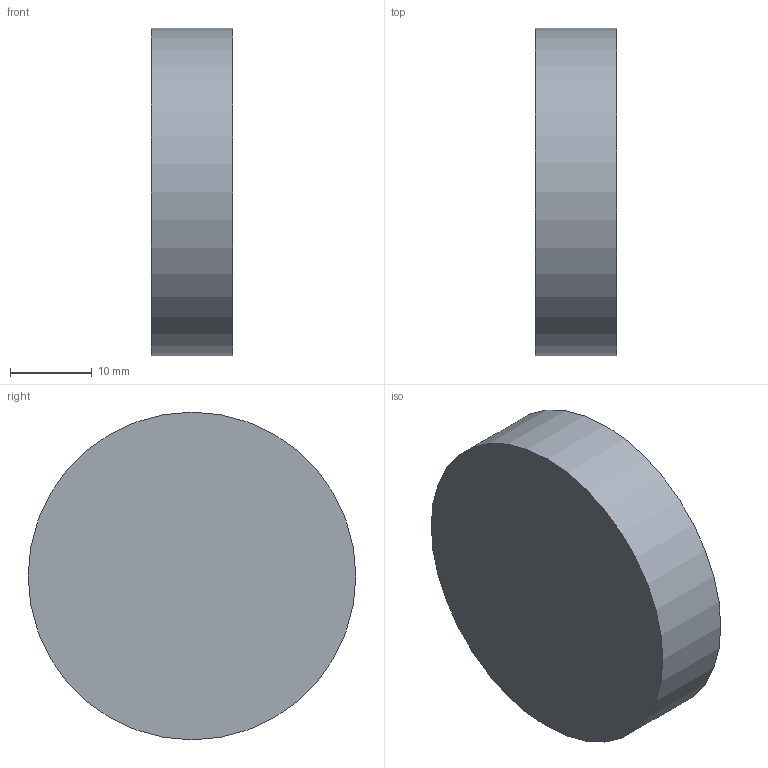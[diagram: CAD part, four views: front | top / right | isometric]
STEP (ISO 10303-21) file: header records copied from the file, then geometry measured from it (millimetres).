
FILE_DESCRIPTION(('Open CASCADE Model'),'2;1');
FILE_NAME('Open CASCADE Shape Model','2026-10-21T10:33:18',('Author'),( 'Open CASCADE'),'Open CASCADE STEP processor 7.9','Open CASCADE 7.9' ,'Unknown');
FILE_SCHEMA(('AUTOMOTIVE_DESIGN { 1 0 10303 214 1 1 1 1 }'));
Length unit declared in the file: millimetre
Products named in the file (1): Open CASCADE STEP translator 7.9 23
Bounding box: 10 x 40 x 40 mm (x, y, z)
Volume: 12566.4 mm3; surface area: 3769.9 mm2
Topology: 1 solids, 1 shells, 3 faces, 3 edges, 2 vertices
Faces by surface type: plane 2, cylinder 1
Full cylindrical faces by diameter (mm): 40 x1
Entity records: 108 total; most frequent: DIRECTION 19, CARTESIAN_POINT 15, AXIS2_PLACEMENT_3D 6, ORIENTED_EDGE 6, PCURVE 6, DEFINITIONAL_REPRESENTATION 6, LINE 5, VECTOR 5
